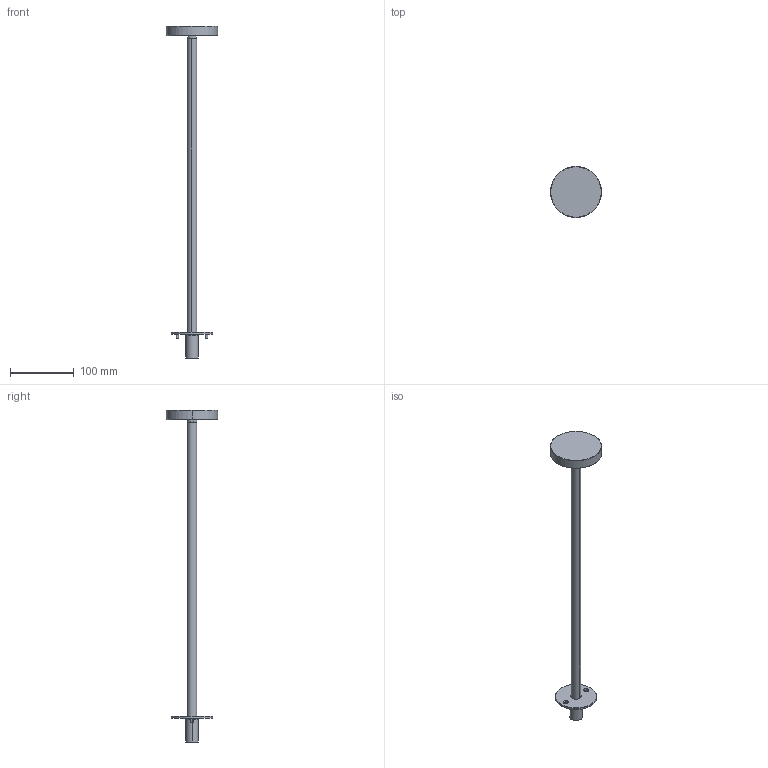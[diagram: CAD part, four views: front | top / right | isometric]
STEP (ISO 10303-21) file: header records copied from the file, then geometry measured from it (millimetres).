
FILE_DESCRIPTION((''),'2;1');
FILE_NAME('PICCHETTO-INDIRETTO_SW0001','2025-06-24T09:37:27',('Piccioli'),(''),'CREO PARAMETRIC BY PTC INC, 2025010','CREO PARAMETRIC BY PTC INC, 2025010','');
FILE_SCHEMA(('CONFIG_CONTROL_DESIGN'));
Length unit declared in the file: millimetre
Products named in the file (1): PICCHETTO-INDIRETTO_SW0001
Bounding box: 80 x 80 x 520 mm (x, y, z)
Surface area: 46226.8 mm2 (no closed solid volume)
Topology: 0 solids, 15 shells, 41 faces, 134 edges, 104 vertices
Faces by surface type: plane 15, cylinder 14, cone 8, torus 4
Entity records: 1614 total; most frequent: CARTESIAN_POINT 349, DIRECTION 294, ORIENTED_EDGE 184, EDGE_CURVE 134, AXIS2_PLACEMENT_3D 121, VERTEX_POINT 104, CIRCLE 80, EDGE_LOOP 54
